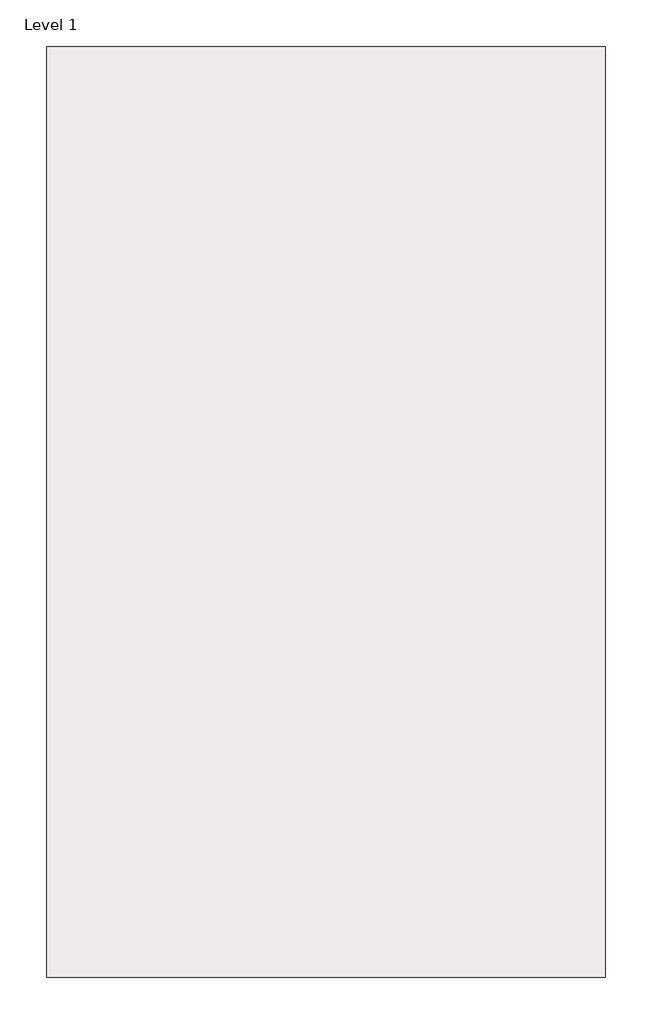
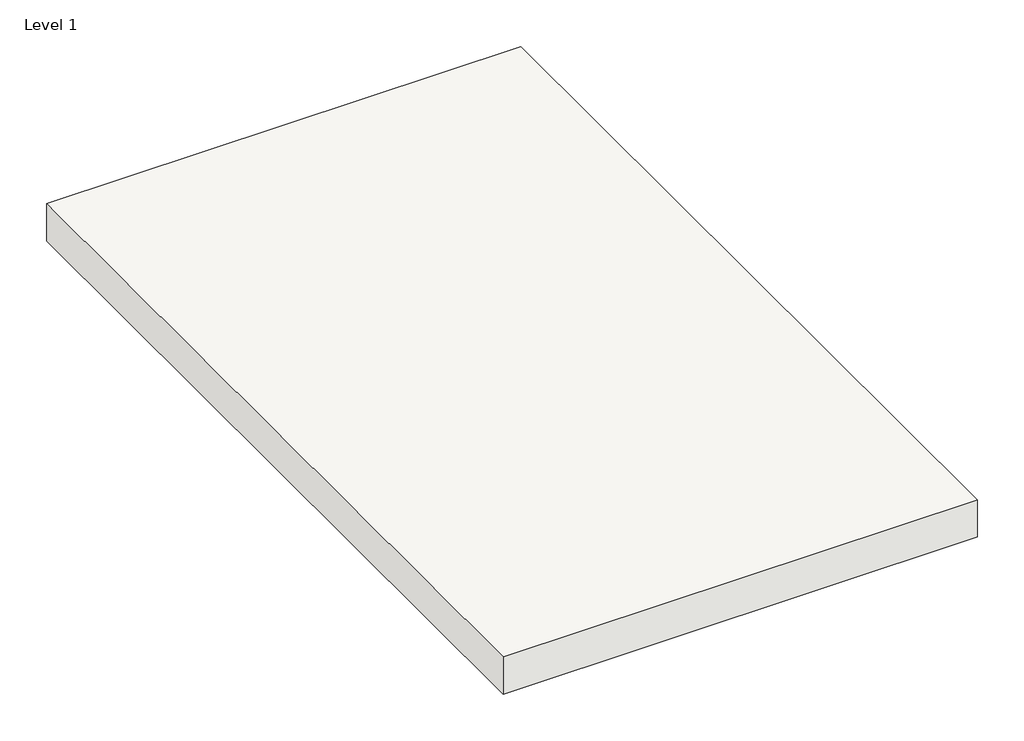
# One storey: 1 slab.
"""IFC4 building model written with IfcOpenShell, lengths in millimetres."""

import ifcopenshell
import ifcopenshell.guid

model = None  # the IFC model being written
_history = None  # IfcOwnerHistory: only IFC2X3 demands one
_inside = {}  # id of a spatial element -> (the spatial element, [elements in it])
_under = {}  # id of a project, library or spatial element -> (it, [spatial elements below it])
_declared = {}  # id of a project -> (the project, [libraries it declares])
_typed = {}  # id of a type object -> (the type object, [elements of that type])
_made_of = {}  # id of a material, layer set ... -> (it, [elements and type objects made of it])


def new_model(schema):
    """Start an empty IFC model of exactly this schema.

    Asked for "IFC4X3", IfcOpenShell would pick the latest addendum, in which some entities
    have other attributes; the version numbers below select the first issue.
    IFC2X3 requires an IfcOwnerHistory on every rooted entity: one is made here for all.
    """
    global model, _history
    if schema == "IFC4X3":
        model = ifcopenshell.file(schema_version=(4, 3, 0, 0))
    else:
        model = ifcopenshell.file(schema=schema)
    _inside.clear()
    _under.clear()
    _declared.clear()
    _typed.clear()
    _made_of.clear()
    _history = None
    if model.schema == "IFC2X3":
        org = make("IfcOrganization", Name="unknown")
        user = make(
            "IfcPersonAndOrganization",
            ThePerson=make("IfcPerson", FamilyName="unknown"),
            TheOrganization=org,
        )
        app = make(
            "IfcApplication",
            ApplicationDeveloper=org,
            Version="unknown",
            ApplicationFullName="unknown",
            ApplicationIdentifier="unknown",
        )
        _history = make(
            "IfcOwnerHistory",
            OwningUser=user,
            OwningApplication=app,
            ChangeAction="ADDED",
            CreationDate=0,
        )
    return model


def make(cls, **values):
    """One entity of the class cls with the attributes given. An attribute that is None is left unset."""
    return model.create_entity(
        cls, **{name: value for name, value in values.items() if value is not None}
    )


def rooted(cls, **values):
    """An entity with a GlobalId (a new one), such as an element, a storey or a relation."""
    return make(cls, GlobalId=ifcopenshell.guid.new(), OwnerHistory=_history, **values)


def si_unit(unit_type, name, prefix=None):
    """IfcSIUnit, for example si_unit("LENGTHUNIT", "METRE", prefix="MILLI")."""
    return make("IfcSIUnit", UnitType=unit_type, Prefix=prefix, Name=name)


def assignment(units):
    """IfcUnitAssignment: the units of a project."""
    return None if units is None else make("IfcUnitAssignment", Units=units)


def point(xyz):
    """IfcCartesianPoint."""
    return None if xyz is None else make("IfcCartesianPoint", Coordinates=xyz)


def direction(xyz):
    """IfcDirection."""
    return None if xyz is None else make("IfcDirection", DirectionRatios=xyz)


def frame(location, z_axis=None, x_axis=None):
    """IfcAxis2Placement3D, a coordinate frame: its origin and axes. An axis left out is left unset."""
    return make(
        "IfcAxis2Placement3D",
        Location=point(location),
        Axis=direction(z_axis),
        RefDirection=direction(x_axis),
    )


def origin():
    """The frame at (0, 0, 0) with its axes left unset."""
    return frame((0.0, 0.0, 0.0))


def place(relative_to, where):
    """IfcLocalPlacement: puts the frame where relative to a parent placement (None: the world)."""
    return make(
        "IfcLocalPlacement", PlacementRelTo=relative_to, RelativePlacement=where
    )


def context(
    kind, dimensions, precision=None, world=None, true_north=None, identifier=None
):
    """IfcGeometricRepresentationContext, for example the 3D "Model" context."""
    return make(
        "IfcGeometricRepresentationContext",
        ContextIdentifier=identifier,
        ContextType=kind,
        CoordinateSpaceDimension=dimensions,
        Precision=precision,
        WorldCoordinateSystem=world,
        TrueNorth=true_north,
    )


def project(units=None, contexts=None):
    """IfcProject with its units and contexts."""
    return rooted(
        "IfcProject",
        Name="project",
        RepresentationContexts=contexts,
        UnitsInContext=assignment(units),
    )


def spatial(cls, under=None, at=None, **own):
    """A site, building, storey or space (cls), placed at a placement, below another one or the project."""
    s = rooted(cls, ObjectPlacement=at, **own)
    if under is not None:
        _under.setdefault(under.id(), (under, []))[1].append(s)
    return s


def polyline(points):
    """IfcPolyline through the points."""
    return make("IfcPolyline", Points=[point(p) for p in points])


def outline(outer, holes=None, kind="AREA"):
    """IfcArbitraryClosedProfileDef: a profile drawn as a closed curve; with holes, ...WithVoids."""
    if holes is None:
        return make("IfcArbitraryClosedProfileDef", ProfileType=kind, OuterCurve=outer)
    return make(
        "IfcArbitraryProfileDefWithVoids",
        ProfileType=kind,
        OuterCurve=outer,
        InnerCurves=holes,
    )


def extrude(swept, where, along, depth):
    """IfcExtrudedAreaSolid: the profile swept, set in the frame where, extruded along a direction by depth."""
    return make(
        "IfcExtrudedAreaSolid",
        SweptArea=swept,
        Position=where,
        ExtrudedDirection=direction(along),
        Depth=depth,
    )


def shape(context_of_items, identifier, shape_type, items):
    """IfcShapeRepresentation: the items that make up one representation, for example the "Body"."""
    return make(
        "IfcShapeRepresentation",
        ContextOfItems=context_of_items,
        RepresentationIdentifier=identifier,
        RepresentationType=shape_type,
        Items=items,
    )


def made_of(thing, what):
    """Note that an element or type object is made of a material, layer set ...; save() writes the relation."""
    if what is not None:
        _made_of.setdefault(what.id(), (what, []))[1].append(thing)
    return thing


def element(
    cls,
    number,
    at=None,
    inside=None,
    cuts=None,
    type_object=None,
    material=None,
    context=None,
    identifier="Body",
    shape_type=None,
    held_by="IfcProductDefinitionShape",
    body=None,
    shapes=None,
    **own,
):
    """One element of the class cls, such as IfcWall. Its Tag is "e" and its number.

    at: its placement. inside: the storey or other place that contains it. cuts: it is an
    opening in that element (IfcRelVoidsElement). A single representation is given by context,
    identifier, shape_type and body (its items); several are given by shapes. held_by: the class
    of the entity that holds the representations. save() writes the other relations.
    """
    e = rooted(cls, Tag="e%d" % number, ObjectPlacement=at, **own)
    if body is not None:
        shapes = [shape(context, identifier, shape_type, body)]
    if shapes is not None:
        e.Representation = make(held_by, Representations=shapes)
    if inside is not None:
        _inside.setdefault(inside.id(), (inside, []))[1].append(e)
    if cuts is not None:
        rooted(
            "IfcRelVoidsElement", RelatingBuildingElement=cuts, RelatedOpeningElement=e
        )
    if type_object is not None:
        _typed.setdefault(type_object.id(), (type_object, []))[1].append(e)
    return made_of(e, material)


def aggregate(whole, parts):
    """IfcRelAggregates: a whole, such as a stair, and the parts it consists of."""
    return rooted("IfcRelAggregates", RelatingObject=whole, RelatedObjects=parts)


def save(model, path):
    """Write the relations noted so far, then the file.

    IfcRelAggregates (storeys below a building ...), IfcRelContainedInSpatialStructure (elements
    in a storey), IfcRelDefinesByType, IfcRelAssociatesMaterial and IfcRelDeclares: one each for
    every whole, place, type object, material and project.
    """
    for whole, parts in _under.values():
        aggregate(whole, parts)
    for where, things in _inside.values():
        rooted(
            "IfcRelContainedInSpatialStructure",
            RelatedElements=things,
            RelatingStructure=where,
        )
    for kind, things in _typed.values():
        rooted("IfcRelDefinesByType", RelatedObjects=things, RelatingType=kind)
    for what, things in _made_of.values():
        rooted("IfcRelAssociatesMaterial", RelatedObjects=things, RelatingMaterial=what)
    for by, libraries in _declared.values():
        rooted("IfcRelDeclares", RelatingContext=by, RelatedDefinitions=libraries)
    model.write(path)


model = new_model("IFC4")

# Units and contexts
model_context = context("Model", 3, world=origin())
ifc_project = project(units=[si_unit("LENGTHUNIT", "METRE", prefix="MILLI")], contexts=[model_context])

# Site, building, storey
site = spatial("IfcSite", under=ifc_project)
building = spatial("IfcBuilding", under=site)
storey = spatial("IfcBuildingStorey", under=building, Name="Level 1", Elevation=0.0)

# Slab
placement = place(None, origin())
element("IfcSlab", 1, ObjectType="TORIS 5.5A", at=placement, inside=storey, context=model_context, shape_type="SweptSolid", body=[
    extrude(outline(polyline([(2747.4282268, 3623.6822678), (2747.4282268, 575.6822678), (918.6282268, 575.6822678), (918.6282268, 3623.6822678), (2747.4282268, 3623.6822678)])), frame((0.0, 0.0, -152.3007812), z_axis=(0.0, 0.0, 1.0), x_axis=(1.0, 0.0, 0.0)), (0.0, 0.0, 1.0), 152.3007812),
])

save(model, "model.ifc")
